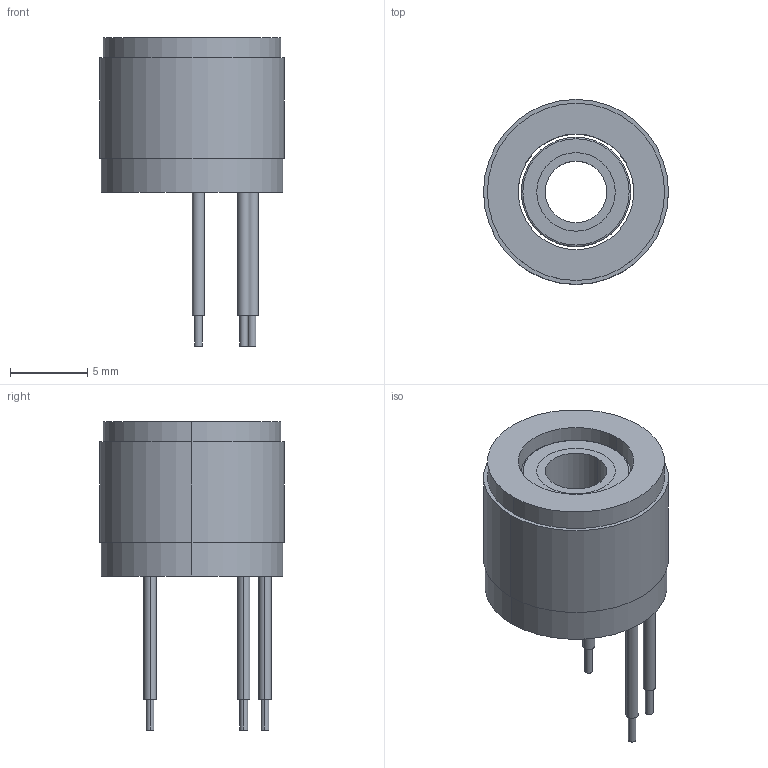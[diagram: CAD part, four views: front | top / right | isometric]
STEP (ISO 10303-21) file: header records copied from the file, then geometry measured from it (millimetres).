
FILE_DESCRIPTION (( 'STEP AP214' ), '1' );
FILE_NAME ('U1210µç»ú.STEP', '2026-07-02T00:19:42', ( 'Windows User' ), ( 'P R C' ), 'SwSTEP 2.0', 'SolidWorks 2023', '' );
FILE_SCHEMA (( 'AUTOMOTIVE_DESIGN' ));
Length unit declared in the file: millimetre
Products named in the file (1): U1210电机
Bounding box: 12 x 12 x 20 mm (x, y, z)
Volume: 884.8 mm3; surface area: 1370.8 mm2
Topology: 3 solids, 3 shells, 46 faces, 92 edges, 60 vertices
Faces by surface type: cylinder 28, plane 14, torus 4
Entity records: 1281 total; most frequent: DIRECTION 250, CARTESIAN_POINT 199, ORIENTED_EDGE 184, AXIS2_PLACEMENT_3D 111, EDGE_CURVE 92, CIRCLE 64, EDGE_LOOP 60, VERTEX_POINT 60
